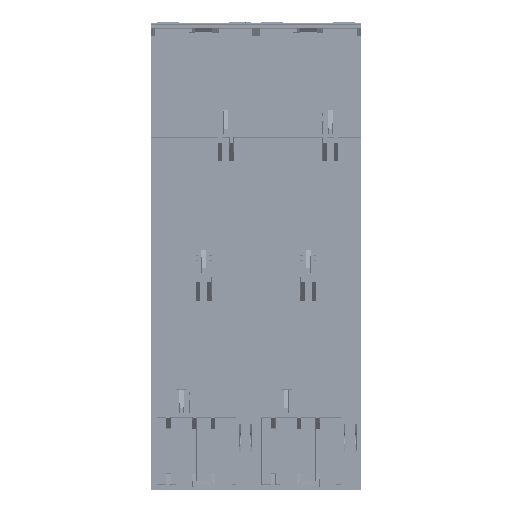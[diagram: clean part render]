
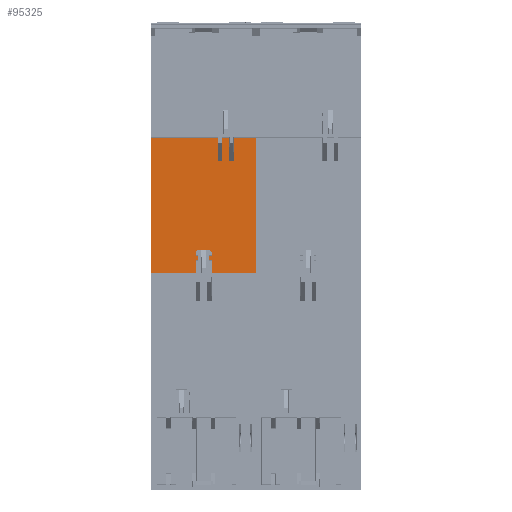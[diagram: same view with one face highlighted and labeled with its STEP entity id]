
A CAD part, front view. The second image highlights one B-rep face of the part: STEP entity #95325.
In plain terms, the highlighted planar face has unit normal (0, -1, 0).
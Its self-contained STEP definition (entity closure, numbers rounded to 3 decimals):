
#3901 = VECTOR ( 'NONE', #169703, 1000. ) ;
#5224 = CARTESIAN_POINT ( 'NONE',  ( 10.959, -4.5, 151.209 ) ) ;
#5777 = LINE ( 'NONE', #129650, #104089 ) ;
#11274 = ORIENTED_EDGE ( 'NONE', *, *, #78523, .T. ) ;
#13132 = DIRECTION ( 'NONE',  ( 0., 0., -1. ) ) ;
#14750 = PLANE ( 'NONE',  #96878 ) ;
#20995 = CARTESIAN_POINT ( 'NONE',  ( 6.059, -4.5, 141.175 ) ) ;
#23722 = DIRECTION ( 'NONE',  ( 0., 0., -1. ) ) ;
#24332 = VECTOR ( 'NONE', #38594, 1000. ) ;
#25186 = ORIENTED_EDGE ( 'NONE', *, *, #176293, .T. ) ;
#26800 = EDGE_LOOP ( 'NONE', ( #150549, #73822, #142331, #132128, #171517, #25186, #168850, #11274, #71886, #29309, #86585, #100571 ) ) ;
#29309 = ORIENTED_EDGE ( 'NONE', *, *, #161669, .T. ) ;
#29740 = DIRECTION ( 'NONE',  ( -1., 0., 0. ) ) ;
#32770 = VERTEX_POINT ( 'NONE', #5224 ) ;
#33155 = VERTEX_POINT ( 'NONE', #68841 ) ;
#33299 = VERTEX_POINT ( 'NONE', #170667 ) ;
#33598 = DIRECTION ( 'NONE',  ( 0., 0., 1. ) ) ;
#35103 = VERTEX_POINT ( 'NONE', #171180 ) ;
#38336 = EDGE_CURVE ( 'NONE', #80261, #107764, #142458, .T. ) ;
#38594 = DIRECTION ( 'NONE',  ( 0., 0., 1. ) ) ;
#40271 = CARTESIAN_POINT ( 'NONE',  ( 8.041, -4.5, 200.5 ) ) ;
#40909 = DIRECTION ( 'NONE',  ( 0., 0., -1. ) ) ;
#43716 = CARTESIAN_POINT ( 'NONE',  ( -22.5, -4.5, 200. ) ) ;
#44930 = DIRECTION ( 'NONE',  ( -1., 0., 0. ) ) ;
#45795 = LINE ( 'NONE', #40271, #148572 ) ;
#53434 = LINE ( 'NONE', #122878, #24332 ) ;
#56683 = CARTESIAN_POINT ( 'NONE',  ( 224.594, -4.5, 200.5 ) ) ;
#61662 = LINE ( 'NONE', #178730, #86140 ) ;
#63421 = CARTESIAN_POINT ( 'NONE',  ( 25.5, -4.5, 93. ) ) ;
#63503 = EDGE_CURVE ( 'NONE', #33299, #135578, #126709, .T. ) ;
#65050 = LINE ( 'NONE', #144519, #170118 ) ;
#65206 = CARTESIAN_POINT ( 'NONE',  ( 22.5, -4.5, 151.209 ) ) ;
#66255 = LINE ( 'NONE', #86081, #81777 ) ;
#68841 = CARTESIAN_POINT ( 'NONE',  ( 12.941, -4.5, 141.175 ) ) ;
#70180 = VECTOR ( 'NONE', #33598, 1000. ) ;
#71886 = ORIENTED_EDGE ( 'NONE', *, *, #79952, .T. ) ;
#71994 = DIRECTION ( 'NONE',  ( -1., 0., 0. ) ) ;
#73822 = ORIENTED_EDGE ( 'NONE', *, *, #123690, .T. ) ;
#78523 = EDGE_CURVE ( 'NONE', #79328, #32770, #53434, .T. ) ;
#79328 = VERTEX_POINT ( 'NONE', #87320 ) ;
#79952 = EDGE_CURVE ( 'NONE', #32770, #35103, #135606, .T. ) ;
#80261 = VERTEX_POINT ( 'NONE', #180126 ) ;
#81777 = VECTOR ( 'NONE', #44930, 1000. ) ;
#85296 = DIRECTION ( 'NONE',  ( 0., 0., -1. ) ) ;
#86081 = CARTESIAN_POINT ( 'NONE',  ( 224.594, -4.5, 141.175 ) ) ;
#86140 = VECTOR ( 'NONE', #23722, 1000. ) ;
#86585 = ORIENTED_EDGE ( 'NONE', *, *, #152597, .T. ) ;
#86872 = CARTESIAN_POINT ( 'NONE',  ( 224.594, -4.5, 151.209 ) ) ;
#87320 = CARTESIAN_POINT ( 'NONE',  ( 10.959, -4.5, 141.175 ) ) ;
#90916 = VERTEX_POINT ( 'NONE', #65206 ) ;
#92113 = VERTEX_POINT ( 'NONE', #148211 ) ;
#94870 = EDGE_CURVE ( 'NONE', #163860, #33299, #146118, .T. ) ;
#95081 = VECTOR ( 'NONE', #130092, 1000. ) ;
#95325 = ADVANCED_FACE ( 'NONE', ( #105786 ), #14750, .T. ) ;
#96878 = AXIS2_PLACEMENT_3D ( 'NONE', #56683, #129033, #85296 ) ;
#100571 = ORIENTED_EDGE ( 'NONE', *, *, #94870, .T. ) ;
#104089 = VECTOR ( 'NONE', #29740, 1000. ) ;
#105786 = FACE_OUTER_BOUND ( 'NONE', #26800, .T. ) ;
#107764 = VERTEX_POINT ( 'NONE', #169668 ) ;
#110154 = EDGE_CURVE ( 'NONE', #90916, #158197, #65050, .T. ) ;
#110246 = LINE ( 'NONE', #43716, #163861 ) ;
#117378 = EDGE_CURVE ( 'NONE', #107764, #90916, #117580, .T. ) ;
#117580 = LINE ( 'NONE', #175074, #95081 ) ;
#121065 = CARTESIAN_POINT ( 'NONE',  ( 12.941, -4.5, 151.209 ) ) ;
#122206 = VECTOR ( 'NONE', #71994, 1000. ) ;
#122878 = CARTESIAN_POINT ( 'NONE',  ( 10.959, -4.5, 200.5 ) ) ;
#123690 = EDGE_CURVE ( 'NONE', #135578, #80261, #110246, .T. ) ;
#126709 = LINE ( 'NONE', #86872, #122206 ) ;
#129033 = DIRECTION ( 'NONE',  ( 0., -1., 0. ) ) ;
#129650 = CARTESIAN_POINT ( 'NONE',  ( 224.594, -4.5, 141.175 ) ) ;
#130092 = DIRECTION ( 'NONE',  ( 0., 0., 1. ) ) ;
#132128 = ORIENTED_EDGE ( 'NONE', *, *, #117378, .T. ) ;
#135578 = VERTEX_POINT ( 'NONE', #159142 ) ;
#135606 = LINE ( 'NONE', #156542, #3901 ) ;
#142331 = ORIENTED_EDGE ( 'NONE', *, *, #38336, .T. ) ;
#142458 = LINE ( 'NONE', #63421, #175981 ) ;
#144519 = CARTESIAN_POINT ( 'NONE',  ( 224.594, -4.5, 151.209 ) ) ;
#146118 = LINE ( 'NONE', #148501, #70180 ) ;
#148211 = CARTESIAN_POINT ( 'NONE',  ( 8.041, -4.5, 141.175 ) ) ;
#148501 = CARTESIAN_POINT ( 'NONE',  ( 6.059, -4.5, 200.5 ) ) ;
#148572 = VECTOR ( 'NONE', #40909, 1000. ) ;
#150549 = ORIENTED_EDGE ( 'NONE', *, *, #63503, .T. ) ;
#152597 = EDGE_CURVE ( 'NONE', #92113, #163860, #66255, .T. ) ;
#156542 = CARTESIAN_POINT ( 'NONE',  ( 224.594, -4.5, 151.209 ) ) ;
#158197 = VERTEX_POINT ( 'NONE', #121065 ) ;
#159142 = CARTESIAN_POINT ( 'NONE',  ( -22.5, -4.5, 151.209 ) ) ;
#161669 = EDGE_CURVE ( 'NONE', #35103, #92113, #45795, .T. ) ;
#163860 = VERTEX_POINT ( 'NONE', #20995 ) ;
#163861 = VECTOR ( 'NONE', #13132, 1000. ) ;
#167617 = EDGE_CURVE ( 'NONE', #33155, #79328, #5777, .T. ) ;
#168850 = ORIENTED_EDGE ( 'NONE', *, *, #167617, .T. ) ;
#169668 = CARTESIAN_POINT ( 'NONE',  ( 22.5, -4.5, 93. ) ) ;
#169703 = DIRECTION ( 'NONE',  ( -1., 0., 0. ) ) ;
#170118 = VECTOR ( 'NONE', #173293, 1000. ) ;
#170667 = CARTESIAN_POINT ( 'NONE',  ( 6.059, -4.5, 151.209 ) ) ;
#171180 = CARTESIAN_POINT ( 'NONE',  ( 8.041, -4.5, 151.209 ) ) ;
#171517 = ORIENTED_EDGE ( 'NONE', *, *, #110154, .T. ) ;
#173293 = DIRECTION ( 'NONE',  ( -1., 0., 0. ) ) ;
#175074 = CARTESIAN_POINT ( 'NONE',  ( 22.5, -4.5, 200.5 ) ) ;
#175981 = VECTOR ( 'NONE', #177122, 1000. ) ;
#176293 = EDGE_CURVE ( 'NONE', #158197, #33155, #61662, .T. ) ;
#177122 = DIRECTION ( 'NONE',  ( 1., 0., 0. ) ) ;
#178730 = CARTESIAN_POINT ( 'NONE',  ( 12.941, -4.5, 200.5 ) ) ;
#180126 = CARTESIAN_POINT ( 'NONE',  ( -22.5, -4.5, 93. ) ) ;
